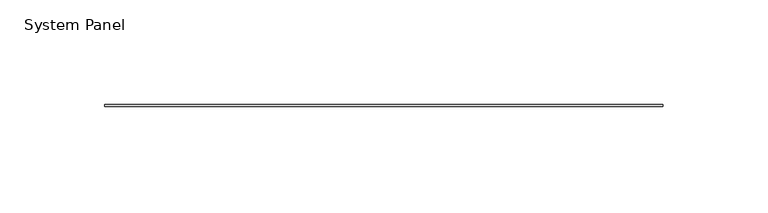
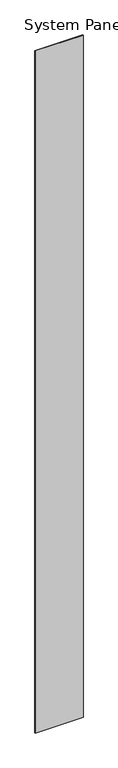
"""IFC4 building model written with IfcOpenShell, lengths in millimetres: plate geometry, System Panel : Stratco_Hiland_Tray."""

import ifcopenshell
import ifcopenshell.guid

model = None  # the IFC model being written
_history = None  # IfcOwnerHistory: only IFC2X3 demands one
_inside = {}  # id of a spatial element -> (the spatial element, [elements in it])
_under = {}  # id of a project, library or spatial element -> (it, [spatial elements below it])
_declared = {}  # id of a project -> (the project, [libraries it declares])
_typed = {}  # id of a type object -> (the type object, [elements of that type])
_made_of = {}  # id of a material, layer set ... -> (it, [elements and type objects made of it])


def new_model(schema):
    """Start an empty IFC model of exactly this schema.

    Asked for "IFC4X3", IfcOpenShell would pick the latest addendum, in which some entities
    have other attributes; the version numbers below select the first issue.
    IFC2X3 requires an IfcOwnerHistory on every rooted entity: one is made here for all.
    """
    global model, _history
    if schema == "IFC4X3":
        model = ifcopenshell.file(schema_version=(4, 3, 0, 0))
    else:
        model = ifcopenshell.file(schema=schema)
    _inside.clear()
    _under.clear()
    _declared.clear()
    _typed.clear()
    _made_of.clear()
    _history = None
    if model.schema == "IFC2X3":
        org = make("IfcOrganization", Name="unknown")
        user = make(
            "IfcPersonAndOrganization",
            ThePerson=make("IfcPerson", FamilyName="unknown"),
            TheOrganization=org,
        )
        app = make(
            "IfcApplication",
            ApplicationDeveloper=org,
            Version="unknown",
            ApplicationFullName="unknown",
            ApplicationIdentifier="unknown",
        )
        _history = make(
            "IfcOwnerHistory",
            OwningUser=user,
            OwningApplication=app,
            ChangeAction="ADDED",
            CreationDate=0,
        )
    return model


def make(cls, **values):
    """One entity of the class cls with the attributes given. An attribute that is None is left unset."""
    return model.create_entity(
        cls, **{name: value for name, value in values.items() if value is not None}
    )


def rooted(cls, **values):
    """An entity with a GlobalId (a new one), such as an element, a storey or a relation."""
    return make(cls, GlobalId=ifcopenshell.guid.new(), OwnerHistory=_history, **values)


def si_unit(unit_type, name, prefix=None):
    """IfcSIUnit, for example si_unit("LENGTHUNIT", "METRE", prefix="MILLI")."""
    return make("IfcSIUnit", UnitType=unit_type, Prefix=prefix, Name=name)


def assignment(units):
    """IfcUnitAssignment: the units of a project."""
    return None if units is None else make("IfcUnitAssignment", Units=units)


def point(xyz):
    """IfcCartesianPoint."""
    return None if xyz is None else make("IfcCartesianPoint", Coordinates=xyz)


def direction(xyz):
    """IfcDirection."""
    return None if xyz is None else make("IfcDirection", DirectionRatios=xyz)


def frame(location, z_axis=None, x_axis=None):
    """IfcAxis2Placement3D, a coordinate frame: its origin and axes. An axis left out is left unset."""
    return make(
        "IfcAxis2Placement3D",
        Location=point(location),
        Axis=direction(z_axis),
        RefDirection=direction(x_axis),
    )


def origin():
    """The frame at (0, 0, 0) with its axes left unset."""
    return frame((0.0, 0.0, 0.0))


def origin_with_axes():
    """The frame at (0, 0, 0) with the z axis (0, 0, 1) and the x axis (1, 0, 0) written out."""
    return frame((0.0, 0.0, 0.0), z_axis=(0.0, 0.0, 1.0), x_axis=(1.0, 0.0, 0.0))


def place(relative_to, where):
    """IfcLocalPlacement: puts the frame where relative to a parent placement (None: the world)."""
    return make(
        "IfcLocalPlacement", PlacementRelTo=relative_to, RelativePlacement=where
    )


def context(
    kind, dimensions, precision=None, world=None, true_north=None, identifier=None
):
    """IfcGeometricRepresentationContext, for example the 3D "Model" context."""
    return make(
        "IfcGeometricRepresentationContext",
        ContextIdentifier=identifier,
        ContextType=kind,
        CoordinateSpaceDimension=dimensions,
        Precision=precision,
        WorldCoordinateSystem=world,
        TrueNorth=true_north,
    )


def project(units=None, contexts=None):
    """IfcProject with its units and contexts."""
    return rooted(
        "IfcProject",
        Name="project",
        RepresentationContexts=contexts,
        UnitsInContext=assignment(units),
    )


def spatial(cls, under=None, at=None, **own):
    """A site, building, storey or space (cls), placed at a placement, below another one or the project."""
    s = rooted(cls, ObjectPlacement=at, **own)
    if under is not None:
        _under.setdefault(under.id(), (under, []))[1].append(s)
    return s


def polyline(points):
    """IfcPolyline through the points."""
    return make("IfcPolyline", Points=[point(p) for p in points])


def outline(outer, holes=None, kind="AREA"):
    """IfcArbitraryClosedProfileDef: a profile drawn as a closed curve; with holes, ...WithVoids."""
    if holes is None:
        return make("IfcArbitraryClosedProfileDef", ProfileType=kind, OuterCurve=outer)
    return make(
        "IfcArbitraryProfileDefWithVoids",
        ProfileType=kind,
        OuterCurve=outer,
        InnerCurves=holes,
    )


def extrude(swept, where, along, depth):
    """IfcExtrudedAreaSolid: the profile swept, set in the frame where, extruded along a direction by depth."""
    return make(
        "IfcExtrudedAreaSolid",
        SweptArea=swept,
        Position=where,
        ExtrudedDirection=direction(along),
        Depth=depth,
    )


def shape(context_of_items, identifier, shape_type, items):
    """IfcShapeRepresentation: the items that make up one representation, for example the "Body"."""
    return make(
        "IfcShapeRepresentation",
        ContextOfItems=context_of_items,
        RepresentationIdentifier=identifier,
        RepresentationType=shape_type,
        Items=items,
    )


def source(mapping_origin, context_of_items, identifier, shape_type, items):
    """IfcRepresentationMap: a shape defined once, which mapped items show again and again."""
    return make(
        "IfcRepresentationMap",
        MappingOrigin=mapping_origin,
        MappedRepresentation=shape(context_of_items, identifier, shape_type, items),
    )


def transform(
    local_origin,
    x_axis=None,
    y_axis=None,
    z_axis=None,
    scale=None,
    scale2=None,
    scale3=None,
    uniform=True,
):
    """IfcCartesianTransformationOperator3D, or its non-uniform kind. x_axis, y_axis, z_axis: its Axis1, 2, 3."""
    if uniform:
        return make(
            "IfcCartesianTransformationOperator3D",
            Axis1=direction(x_axis),
            Axis2=direction(y_axis),
            LocalOrigin=point(local_origin),
            Scale=scale,
            Axis3=direction(z_axis),
        )
    return make(
        "IfcCartesianTransformationOperator3DnonUniform",
        Axis1=direction(x_axis),
        Axis2=direction(y_axis),
        LocalOrigin=point(local_origin),
        Scale=scale,
        Axis3=direction(z_axis),
        Scale2=scale2,
        Scale3=scale3,
    )


def mapped(mapping_source, mapping_target):
    """IfcMappedItem: shows the shape of a source again, moved by a transform."""
    return make(
        "IfcMappedItem", MappingSource=mapping_source, MappingTarget=mapping_target
    )


def made_of(thing, what):
    """Note that an element or type object is made of a material, layer set ...; save() writes the relation."""
    if what is not None:
        _made_of.setdefault(what.id(), (what, []))[1].append(thing)
    return thing


def element(
    cls,
    number,
    at=None,
    inside=None,
    cuts=None,
    type_object=None,
    material=None,
    context=None,
    identifier="Body",
    shape_type=None,
    held_by="IfcProductDefinitionShape",
    body=None,
    shapes=None,
    **own,
):
    """One element of the class cls, such as IfcWall. Its Tag is "e" and its number.

    at: its placement. inside: the storey or other place that contains it. cuts: it is an
    opening in that element (IfcRelVoidsElement). A single representation is given by context,
    identifier, shape_type and body (its items); several are given by shapes. held_by: the class
    of the entity that holds the representations. save() writes the other relations.
    """
    e = rooted(cls, Tag="e%d" % number, ObjectPlacement=at, **own)
    if body is not None:
        shapes = [shape(context, identifier, shape_type, body)]
    if shapes is not None:
        e.Representation = make(held_by, Representations=shapes)
    if inside is not None:
        _inside.setdefault(inside.id(), (inside, []))[1].append(e)
    if cuts is not None:
        rooted(
            "IfcRelVoidsElement", RelatingBuildingElement=cuts, RelatedOpeningElement=e
        )
    if type_object is not None:
        _typed.setdefault(type_object.id(), (type_object, []))[1].append(e)
    return made_of(e, material)


def aggregate(whole, parts):
    """IfcRelAggregates: a whole, such as a stair, and the parts it consists of."""
    return rooted("IfcRelAggregates", RelatingObject=whole, RelatedObjects=parts)


def save(model, path):
    """Write the relations noted so far, then the file.

    IfcRelAggregates (storeys below a building ...), IfcRelContainedInSpatialStructure (elements
    in a storey), IfcRelDefinesByType, IfcRelAssociatesMaterial and IfcRelDeclares: one each for
    every whole, place, type object, material and project.
    """
    for whole, parts in _under.values():
        aggregate(whole, parts)
    for where, things in _inside.values():
        rooted(
            "IfcRelContainedInSpatialStructure",
            RelatedElements=things,
            RelatingStructure=where,
        )
    for kind, things in _typed.values():
        rooted("IfcRelDefinesByType", RelatedObjects=things, RelatingType=kind)
    for what, things in _made_of.values():
        rooted("IfcRelAssociatesMaterial", RelatedObjects=things, RelatingMaterial=what)
    for by, libraries in _declared.values():
        rooted("IfcRelDeclares", RelatingContext=by, RelatedDefinitions=libraries)
    model.write(path)


def system_panel_9adcc186(model_context):
    return source(origin(), model_context, "Body", "SweptSolid", [
        extrude(outline(polyline([(133.2889718, 2.5), (-133.2889718, 2.5), (-133.2889718, 3.5), (133.2889718, 3.5), (133.2889718, 2.5)])), origin_with_axes(), (0.0, 0.0, 1.0), 4000.0),
    ])


if __name__ == "__main__":
    model = new_model("IFC4")
    model_context = context("Model", 3, world=origin())
    ifc_project = project(units=[si_unit("LENGTHUNIT", "METRE", prefix="MILLI")], contexts=[model_context])
    site = spatial("IfcSite", under=ifc_project)
    building = spatial("IfcBuilding", under=site)
    placement = place(None, origin())
    system_panel_shape = system_panel_9adcc186(model_context)
    element("IfcPlate", 1, ObjectType="System Panel : Stratco_Hiland_Tray", at=placement, inside=building, context=model_context, shape_type="MappedRepresentation", body=[
        mapped(system_panel_shape, transform((0.0, 0.0, 0.0), x_axis=(1.0, 0.0, 0.0), y_axis=(0.0, 1.0, 0.0), z_axis=(0.0, 0.0, 1.0))),
    ])
    save(model, "model.ifc")
